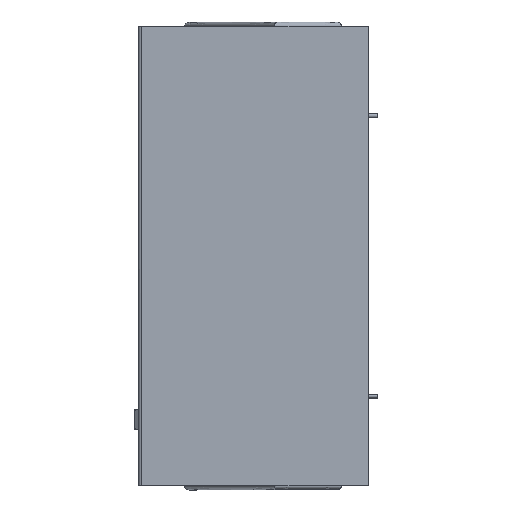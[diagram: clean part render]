
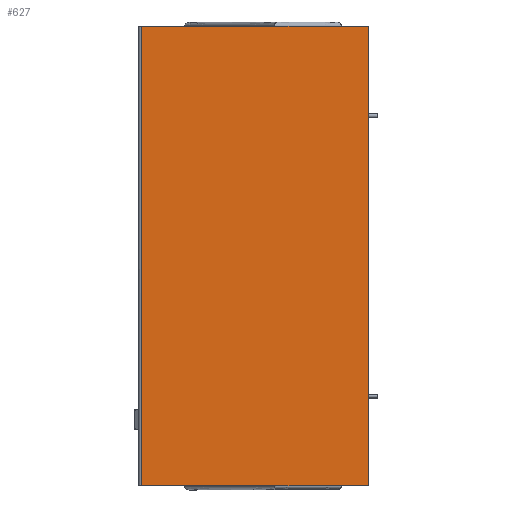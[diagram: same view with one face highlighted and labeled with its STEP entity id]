
A CAD part, top view. The second image highlights one B-rep face of the part: STEP entity #627.
In plain terms, the highlighted planar face has unit normal (0, 0, 1).
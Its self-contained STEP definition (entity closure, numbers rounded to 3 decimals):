
#627=ADVANCED_FACE('',(#3017),#37392,.T.);
#3017=FACE_OUTER_BOUND('',#5415,.T.);
#5415=EDGE_LOOP('',(#8325,#8326,#8327,#8328));
#8325=ORIENTED_EDGE('',*,*,#20142,.T.);
#8326=ORIENTED_EDGE('',*,*,#20131,.F.);
#8327=ORIENTED_EDGE('',*,*,#20135,.T.);
#8328=ORIENTED_EDGE('',*,*,#20140,.T.);
#20131=EDGE_CURVE('',#32195,#32196,#28603,.T.);
#20135=EDGE_CURVE('',#32195,#32199,#28605,.T.);
#20140=EDGE_CURVE('',#32199,#32202,#28610,.T.);
#20142=EDGE_CURVE('',#32202,#32196,#28612,.T.);
#28603=B_SPLINE_CURVE_WITH_KNOTS('',1,(#41409,#41410),.UNSPECIFIED.,.F.,
 .F.,(2,2),(0.,1524.),.UNSPECIFIED.);
#28605=B_SPLINE_CURVE_WITH_KNOTS('',1,(#41423,#41424),.UNSPECIFIED.,.F.,
 .F.,(2,2),(-752.5,0.),.UNSPECIFIED.);
#28610=B_SPLINE_CURVE_WITH_KNOTS('',1,(#41433,#41434),.UNSPECIFIED.,.F.,
 .F.,(2,2),(-1524.,0.),.UNSPECIFIED.);
#28612=B_SPLINE_CURVE_WITH_KNOTS('',1,(#41437,#41438),.UNSPECIFIED.,.F.,
 .F.,(2,2),(-752.5,0.),.UNSPECIFIED.);
#32195=VERTEX_POINT('',#41401);
#32196=VERTEX_POINT('',#41402);
#32199=VERTEX_POINT('',#41405);
#32202=VERTEX_POINT('',#41408);
#37392=PLANE('',#38212);
#38212=AXIS2_PLACEMENT_3D('',#41399,#39016,$);
#39016=DIRECTION('',(0.,0.,1.));
#41399=CARTESIAN_POINT('',(225.25,1581.936,133.692));
#41401=CARTESIAN_POINT('',(-602.5,-94.464,133.692));
#41402=CARTESIAN_POINT('',(-602.5,1429.536,133.692));
#41405=CARTESIAN_POINT('',(150.,-94.464,133.692));
#41408=CARTESIAN_POINT('',(150.,1429.536,133.692));
#41409=CARTESIAN_POINT('',(-602.5,-94.464,133.692));
#41410=CARTESIAN_POINT('',(-602.5,1429.536,133.692));
#41423=CARTESIAN_POINT('',(-602.5,-94.464,133.692));
#41424=CARTESIAN_POINT('',(150.,-94.464,133.692));
#41433=CARTESIAN_POINT('',(150.,-94.464,133.692));
#41434=CARTESIAN_POINT('',(150.,1429.536,133.692));
#41437=CARTESIAN_POINT('',(150.,1429.536,133.692));
#41438=CARTESIAN_POINT('',(-602.5,1429.536,133.692));
